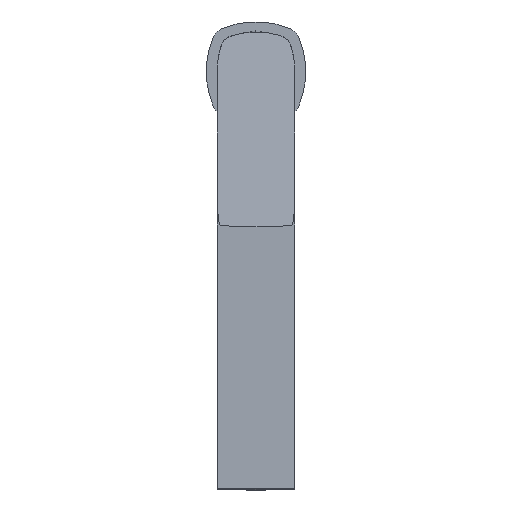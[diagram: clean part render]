
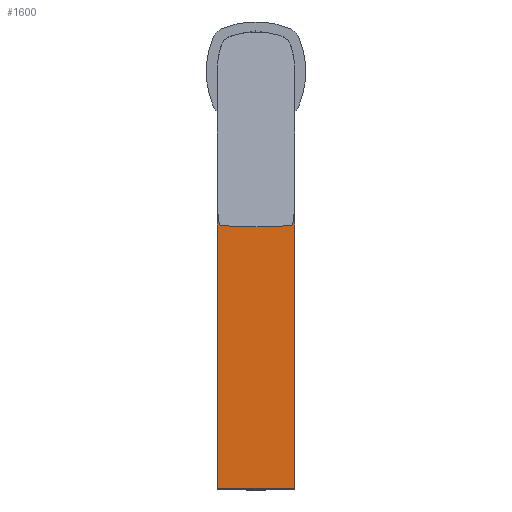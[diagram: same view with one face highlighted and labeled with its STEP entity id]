
A CAD part, top view. The second image highlights one B-rep face of the part: STEP entity #1600.
In plain terms, the highlighted planar face has unit normal (0, 0, 1).
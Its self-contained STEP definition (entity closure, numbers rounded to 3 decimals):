
#1072 = VERTEX_POINT('',#1073);
#1073 = CARTESIAN_POINT('',(0.,-17.496,
    241.188));
#1080 = EDGE_CURVE('',#1081,#1072,#1083,.T.);
#1081 = VERTEX_POINT('',#1082);
#1082 = CARTESIAN_POINT('',(0.,17.496,
    241.188));
#1083 = CIRCLE('',#1084,17.496);
#1084 = AXIS2_PLACEMENT_3D('',#1085,#1086,#1087);
#1085 = CARTESIAN_POINT('',(0.,0.,
    241.188));
#1086 = DIRECTION('',(0.,0.,1.));
#1087 = DIRECTION('',(0.,1.,0.));
#1115 = EDGE_CURVE('',#1072,#1081,#1116,.T.);
#1116 = CIRCLE('',#1117,17.496);
#1117 = AXIS2_PLACEMENT_3D('',#1118,#1119,#1120);
#1118 = CARTESIAN_POINT('',(0.,0.,
    241.188));
#1119 = DIRECTION('',(0.,0.,1.));
#1120 = DIRECTION('',(0.,1.,0.));
#1146 = VERTEX_POINT('',#1147);
#1147 = CARTESIAN_POINT('',(-17.465,12.433,
    241.188));
#1184 = VERTEX_POINT('',#1185);
#1185 = CARTESIAN_POINT('',(-19.5,0.,
    241.188));
#1191 = EDGE_CURVE('',#1184,#1146,#1192,.T.);
#1192 = CIRCLE('',#1193,39.);
#1193 = AXIS2_PLACEMENT_3D('',#1194,#1195,#1196);
#1194 = CARTESIAN_POINT('',(19.5,0.,
    241.188));
#1195 = DIRECTION('',(0.,0.,-1.));
#1196 = DIRECTION('',(-0.928,-0.373,-0.));
#1344 = VERTEX_POINT('',#1345);
#1345 = CARTESIAN_POINT('',(17.465,12.433,
    241.188));
#1351 = EDGE_CURVE('',#1344,#1352,#1354,.T.);
#1352 = VERTEX_POINT('',#1353);
#1353 = CARTESIAN_POINT('',(19.5,0.,
    241.188));
#1354 = CIRCLE('',#1355,39.);
#1355 = AXIS2_PLACEMENT_3D('',#1356,#1357,#1358);
#1356 = CARTESIAN_POINT('',(-19.5,0.,241.188));
#1357 = DIRECTION('',(0.,0.,-1.));
#1358 = DIRECTION('',(0.928,-0.373,0.));
#1393 = EDGE_CURVE('',#1344,#1394,#1396,.T.);
#1394 = VERTEX_POINT('',#1395);
#1395 = CARTESIAN_POINT('',(12.433,17.465,
    241.188));
#1396 = CIRCLE('',#1397,8.);
#1397 = AXIS2_PLACEMENT_3D('',#1398,#1399,#1400);
#1398 = CARTESIAN_POINT('',(9.883,9.883,
    241.188));
#1399 = DIRECTION('',(0.,0.,1.));
#1400 = DIRECTION('',(1.,0.,-0.));
#1426 = EDGE_CURVE('',#1394,#1427,#1429,.T.);
#1427 = VERTEX_POINT('',#1428);
#1428 = CARTESIAN_POINT('',(-12.433,17.465,
    241.188));
#1429 = CIRCLE('',#1430,39.);
#1430 = AXIS2_PLACEMENT_3D('',#1431,#1432,#1433);
#1431 = CARTESIAN_POINT('',(0.,-19.5,
    241.188));
#1432 = DIRECTION('',(0.,0.,1.));
#1433 = DIRECTION('',(-0.373,0.928,0.));
#1459 = EDGE_CURVE('',#1427,#1146,#1460,.T.);
#1460 = CIRCLE('',#1461,8.);
#1461 = AXIS2_PLACEMENT_3D('',#1462,#1463,#1464);
#1462 = CARTESIAN_POINT('',(-9.883,9.883,
    241.188));
#1463 = DIRECTION('',(0.,0.,1.));
#1464 = DIRECTION('',(1.,0.,-0.));
#1542 = EDGE_CURVE('',#1543,#1184,#1545,.T.);
#1543 = VERTEX_POINT('',#1544);
#1544 = CARTESIAN_POINT('',(-19.5,-209.2,241.188));
#1545 = LINE('',#1546,#1547);
#1546 = CARTESIAN_POINT('',(-19.5,-209.2,241.188));
#1547 = VECTOR('',#1548,1.);
#1548 = DIRECTION('',(0.,1.,0.));
#1582 = EDGE_CURVE('',#1352,#1583,#1585,.T.);
#1583 = VERTEX_POINT('',#1584);
#1584 = CARTESIAN_POINT('',(19.5,-209.2,241.188));
#1585 = LINE('',#1586,#1587);
#1586 = CARTESIAN_POINT('',(19.5,-209.2,241.188));
#1587 = VECTOR('',#1588,1.);
#1588 = DIRECTION('',(0.,-1.,0.));
#1600 = ADVANCED_FACE('',(#1601,#1616),#1620,.T.);
#1601 = FACE_BOUND('',#1602,.T.);
#1602 = EDGE_LOOP('',(#1603,#1604,#1610,#1611,#1612,#1613,#1614,#1615));
#1603 = ORIENTED_EDGE('',*,*,#1542,.F.);
#1604 = ORIENTED_EDGE('',*,*,#1605,.T.);
#1605 = EDGE_CURVE('',#1543,#1583,#1606,.T.);
#1606 = LINE('',#1607,#1608);
#1607 = CARTESIAN_POINT('',(-19.5,-209.2,241.188));
#1608 = VECTOR('',#1609,1.);
#1609 = DIRECTION('',(1.,0.,0.));
#1610 = ORIENTED_EDGE('',*,*,#1582,.F.);
#1611 = ORIENTED_EDGE('',*,*,#1351,.F.);
#1612 = ORIENTED_EDGE('',*,*,#1393,.T.);
#1613 = ORIENTED_EDGE('',*,*,#1426,.T.);
#1614 = ORIENTED_EDGE('',*,*,#1459,.T.);
#1615 = ORIENTED_EDGE('',*,*,#1191,.F.);
#1616 = FACE_BOUND('',#1617,.T.);
#1617 = EDGE_LOOP('',(#1618,#1619));
#1618 = ORIENTED_EDGE('',*,*,#1080,.F.);
#1619 = ORIENTED_EDGE('',*,*,#1115,.F.);
#1620 = PLANE('',#1621);
#1621 = AXIS2_PLACEMENT_3D('',#1622,#1623,#1624);
#1622 = CARTESIAN_POINT('',(19.5,-210.,241.188));
#1623 = DIRECTION('',(0.,0.,1.));
#1624 = DIRECTION('',(0.,1.,0.));
